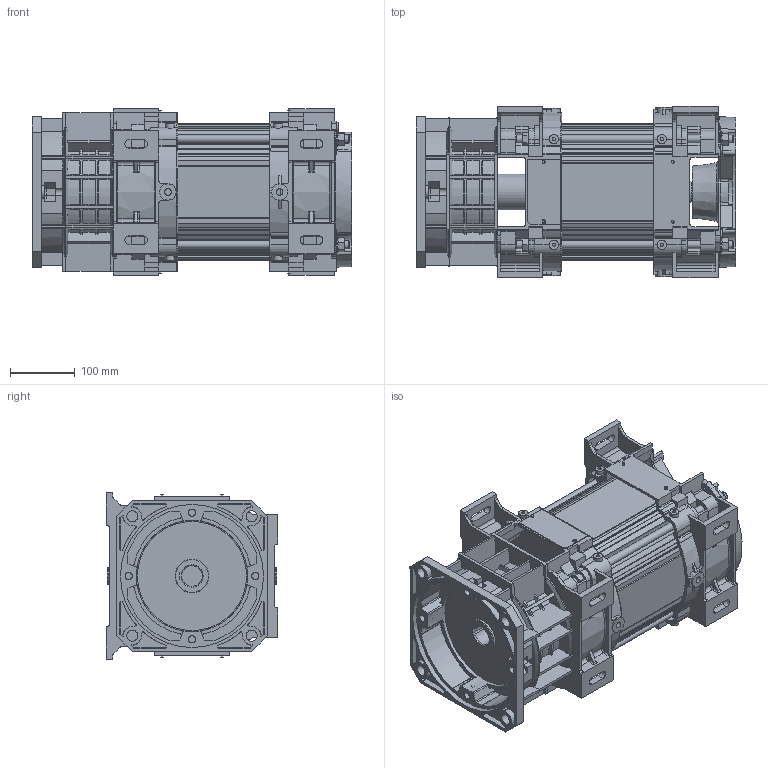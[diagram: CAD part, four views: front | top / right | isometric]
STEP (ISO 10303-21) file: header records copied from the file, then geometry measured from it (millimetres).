
FILE_DESCRIPTION(/* description */ ('Motore Tipo S76 Fl.220 F32-H185 SI Volano D168 NO Piedi'),/* implementation_level */ '2;1');
FILE_NAME(/* name */ 'Y:\ServerTecnico\Mockup Motori x Sito Elmo\Mockup Tipo V76 Size 2 FL220 F32-H185 SI Volano D168.stp',/* time_stamp */ '2016-11-04T11:46:14+01:00',/* author */ ('aparmini'),/* organization */ (''),/* preprocessor_version */ 'ST-DEVELOPER v16.5',/* originating_system */ 'Autodesk Inventor 2017',/* authorisation */ '');
FILE_SCHEMA (('AUTOMOTIVE_DESIGN { 1 0 10303 214 3 1 1 }'));
Products named in the file (12): Mockup Tipo V76 Size 2 FL220 F32-H185 SI Volano D168; Mockup Statore Size 2 - F32-H185 SI Volano D168; TGS10; CA2FD220N; CsperimParma Nuovo CRUC  14-02-05; Ca sperimSenza Volano Nuovo; CAV2 DISTANZIALE; Mockup CP2X062N; UNI 5588 - M12; DIN 125-2 - B 13; TI12ML335; UNI 5588 - M12_1
Assembly tree (23 placements, depth 3):
  Mockup Tipo V76 Size 2 FL220 F32-H185 SI Volano D168
    Mockup Statore Size 2 - F32-H185 SI Volano D168
    TGS10
    CA2FD220N
      CsperimParma Nuovo CRUC  14-02-05
      Ca sperimSenza Volano Nuovo
      CAV2 DISTANZIALE
    Mockup CP2X062N
    UNI 5588 - M12  x4
    DIN 125-2 - B 13  x4
    TI12ML335  x4
    UNI 5588 - M12_1  x4
Bounding box: 492 x 264 x 256 mm (x, y, z)
Volume: 11866518 mm3; surface area: 1487507.8 mm2
Topology: 25 solids, 25 shells, 2445 faces, 6791 edges, 4403 vertices
Faces by surface type: plane 1027, cylinder 781, cone 439, torus 102, bspline 80, sphere 16
Full cylindrical faces by diameter (mm): 4 x8, 5 x10, 8 x2, 10 x4, 10.106 x8, 11 x4, 12 x4, 13 x8, 14 x10, 17 x4, 24 x4, 25 x5, 30 x1, 32 x1, 52 x2, 55 x1, 62 x3, 65 x1, 67.5 x1, 168 x1, 220 x1
Entity records: 76920 total; most frequent: CARTESIAN_POINT 17414, ORIENTED_EDGE 12606, DIRECTION 12604, EDGE_CURVE 6303, AXIS2_PLACEMENT_3D 4686, VERTEX_POINT 4165, LINE 3232, VECTOR 3232
